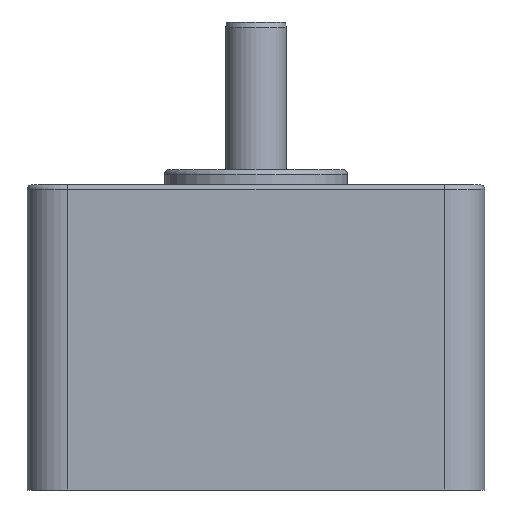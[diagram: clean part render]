
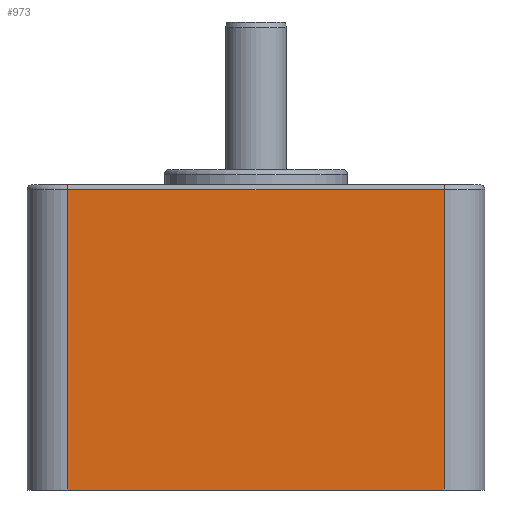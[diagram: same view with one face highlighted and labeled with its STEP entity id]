
A CAD part, front view. The second image highlights one B-rep face of the part: STEP entity #973.
In plain terms, the highlighted planar face has unit normal (0, -1, 0).
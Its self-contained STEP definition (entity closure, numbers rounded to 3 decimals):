
#670=CARTESIAN_POINT('',(82.,0.0,59.0));
#671=VERTEX_POINT('',#670);
#680=CARTESIAN_POINT('',(8.,0.0,59.0));
#681=VERTEX_POINT('',#680);
#689=CARTESIAN_POINT('',(8.,0.0,59.0));
#690=DIRECTION('',(1.0,0.0,0.0));
#691=VECTOR('',#690,74.);
#692=LINE('',#689,#691);
#693=EDGE_CURVE('',#681,#671,#692,.T.);
#931=CARTESIAN_POINT('',(82.,0.0,0.0));
#932=VERTEX_POINT('',#931);
#933=CARTESIAN_POINT('',(82.,0.0,59.0));
#934=DIRECTION('',(0.0,0.0,-1.0));
#935=VECTOR('',#934,59.0);
#936=LINE('',#933,#935);
#937=EDGE_CURVE('',#671,#932,#936,.T.);
#950=CARTESIAN_POINT('',(90.,0.0,0.0));
#951=DIRECTION('',(0.0,-1.0,0.0));
#952=DIRECTION('',(0.0,0.0,-1.0));
#953=AXIS2_PLACEMENT_3D('',#950,#951,#952);
#954=PLANE('',#953);
#955=ORIENTED_EDGE('',*,*,#693,.F.);
#956=CARTESIAN_POINT('',(8.,0.0,0.0));
#957=VERTEX_POINT('',#956);
#958=CARTESIAN_POINT('',(8.,0.0,0.0));
#959=DIRECTION('',(0.0,0.0,1.0));
#960=VECTOR('',#959,59.0);
#961=LINE('',#958,#960);
#962=EDGE_CURVE('',#957,#681,#961,.T.);
#963=ORIENTED_EDGE('',*,*,#962,.F.);
#964=CARTESIAN_POINT('',(8.,0.0,0.0));
#965=DIRECTION('',(1.0,0.0,0.0));
#966=VECTOR('',#965,74.);
#967=LINE('',#964,#966);
#968=EDGE_CURVE('',#957,#932,#967,.T.);
#969=ORIENTED_EDGE('',*,*,#968,.T.);
#970=ORIENTED_EDGE('',*,*,#937,.F.);
#971=EDGE_LOOP('',(#955,#963,#969,#970));
#972=FACE_OUTER_BOUND('',#971,.T.);
#973=ADVANCED_FACE('',(#972),#954,.T.);
